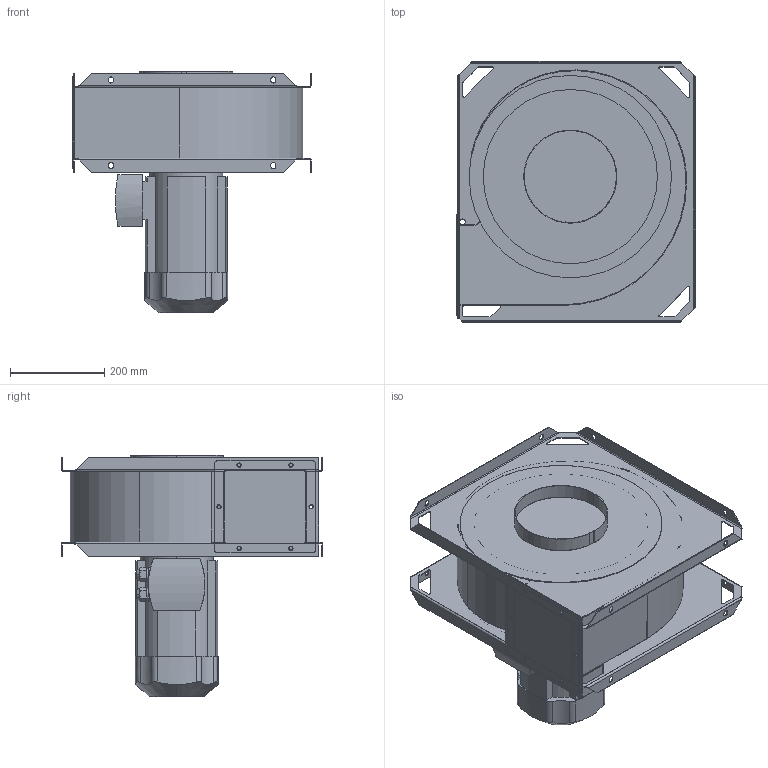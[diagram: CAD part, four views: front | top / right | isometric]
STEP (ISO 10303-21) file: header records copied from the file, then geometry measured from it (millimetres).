
FILE_DESCRIPTION((''),'2;1');
FILE_NAME('FTE_220_LG90','2022-10-13T14:50:27',('Tomas Bellgran'),(''),'CREO PARAMETRIC BY PTC INC, 2018260','CREO PARAMETRIC BY PTC INC, 2018260','');
FILE_SCHEMA(('AUTOMOTIVE_DESIGN { 1 0 10303 214 1 1 1 1 }'));
Length unit declared in the file: millimetre
Products named in the file (12): 109604; 109613; 109614; 109629; 116455; 108025; 108028; 108022; 4A3-90L-B5_L; 120070; 116968; FTE_220_LG90
Assembly tree (11 placements, depth 3):
  FTE_220_LG90
    109629
      109604
      109613
      109614
    116455
    108022
      108025
      108028
    120070
      4A3-90L-B5_L
    116968
Bounding box: 505.8 x 555 x 512 mm (x, y, z)
Volume: 10183913.1 mm3; surface area: 2384023.7 mm2
Topology: 9 solids, 9 shells, 515 faces, 1316 edges, 832 vertices
Faces by surface type: plane 301, cylinder 184, bspline 24, cone 6
Entity records: 25238 total; most frequent: CARTESIAN_POINT 4316, ORIENTED_EDGE 2632, DIRECTION 2628, PRESENTATION_STYLE_ASSIGNMENT 1840, STYLED_ITEM 1840, CURVE_STYLE 1316, EDGE_CURVE 1316, VECTOR 892
